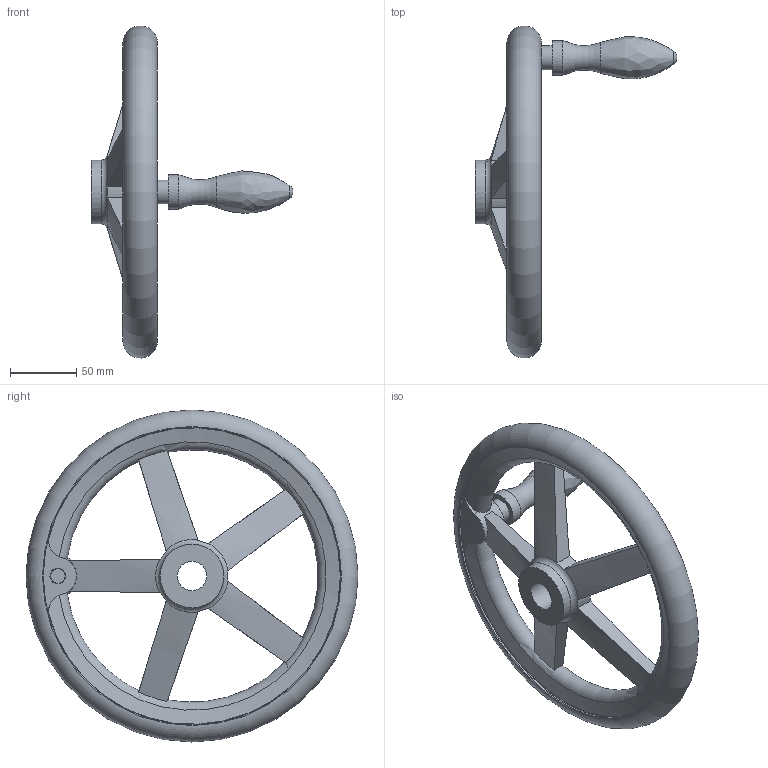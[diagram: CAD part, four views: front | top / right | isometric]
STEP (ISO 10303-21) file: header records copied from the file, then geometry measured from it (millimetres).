
FILE_DESCRIPTION( ( 'STEP AP203' ), '1' );
FILE_NAME( 'C:/Temp/Ganter_Step_05_03_2020/data/1_3/din_950/din_950_b/din_950_b_d/Handwheel DIN 950-AL-250-B22-D.stp', '2020-03-05T10:29:50', ( 'License CC BY-ND 4.0' ), ( 'CADENAS' ), ' ', 'PARTsolutions', ' ' );
FILE_SCHEMA( ( 'CONFIG_CONTROL_DESIGN' ) );
Length unit declared in the file: millimetre
Products named in the file (1): _Handwheel DIN 950-AL-250-B22-D
Bounding box: 152 x 249.92 x 249.92 mm (x, y, z)
Volume: 565567.4 mm3; surface area: 102879.9 mm2
Topology: 1 solids, 1 shells, 58 faces, 165 edges, 106 vertices
Faces by surface type: cylinder 17, plane 16, torus 13, cone 10, bspline 1, sphere 1
Full cylindrical faces by diameter (mm): 18 x1, 22 x1, 26 x1, 48 x2, 224 x2
Entity records: 2315 total; most frequent: CARTESIAN_POINT 927, ORIENTED_EDGE 278, DIRECTION 254, EDGE_CURVE 139, AXIS2_PLACEMENT_3D 119, VERTEX_POINT 102, EDGE_LOOP 87, FACE_OUTER_BOUND 74
